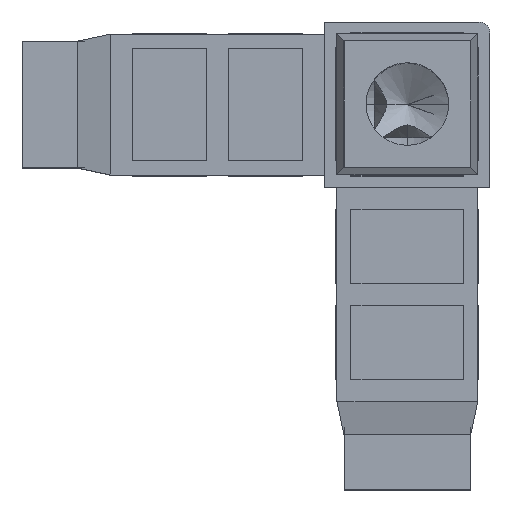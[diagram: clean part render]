
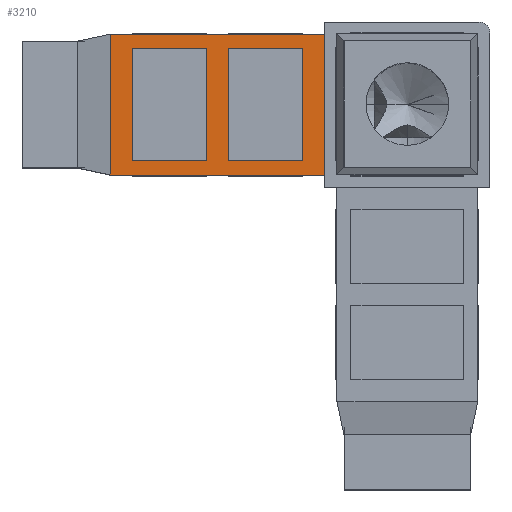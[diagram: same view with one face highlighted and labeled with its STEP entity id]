
A CAD part, top view. The second image highlights one B-rep face of the part: STEP entity #3210.
In plain terms, the highlighted planar face has unit normal (0, 0, 1).
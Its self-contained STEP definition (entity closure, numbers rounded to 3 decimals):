
#8 = EDGE_CURVE ( 'NONE', #3108, #4828, #1395, .T. ) ;
#17 = CARTESIAN_POINT ( 'NONE',  ( -36.5, 10.25, 12.8 ) ) ;
#25 = CARTESIAN_POINT ( 'NONE',  ( -32.5, -10.25, 12.8 ) ) ;
#67 = CARTESIAN_POINT ( 'NONE',  ( -50., 10.25, 12.8 ) ) ;
#164 = CARTESIAN_POINT ( 'NONE',  ( -60., 12.8, 12.8 ) ) ;
#178 = LINE ( 'NONE', #1509, #4492 ) ;
#211 = DIRECTION ( 'NONE',  ( 0., 1., 0. ) ) ;
#240 = CARTESIAN_POINT ( 'NONE',  ( -50., 10.25, 12.8 ) ) ;
#469 = VERTEX_POINT ( 'NONE', #1046 ) ;
#609 = VERTEX_POINT ( 'NONE', #3351 ) ;
#670 = VECTOR ( 'NONE', #3198, 1000. ) ;
#709 = DIRECTION ( 'NONE',  ( 0., 0., -1. ) ) ;
#738 = FACE_BOUND ( 'NONE', #2745, .T. ) ;
#758 = DIRECTION ( 'NONE',  ( 0., 1., 0. ) ) ;
#947 = EDGE_CURVE ( 'NONE', #2266, #469, #3864, .T. ) ;
#981 = CARTESIAN_POINT ( 'NONE',  ( -54., -12.8, 12.8 ) ) ;
#997 = VERTEX_POINT ( 'NONE', #3586 ) ;
#1041 = CARTESIAN_POINT ( 'NONE',  ( -54., 12.8, 12.8 ) ) ;
#1046 = CARTESIAN_POINT ( 'NONE',  ( -54., -12.8, 12.8 ) ) ;
#1082 = CARTESIAN_POINT ( 'NONE',  ( -32.5, 10.25, 12.8 ) ) ;
#1094 = CARTESIAN_POINT ( 'NONE',  ( -19., -10.25, 12.8 ) ) ;
#1149 = DIRECTION ( 'NONE',  ( -1., 0., 0. ) ) ;
#1270 = VECTOR ( 'NONE', #3996, 1000. ) ;
#1280 = LINE ( 'NONE', #2907, #3438 ) ;
#1395 = LINE ( 'NONE', #4497, #1270 ) ;
#1399 = VERTEX_POINT ( 'NONE', #25 ) ;
#1488 = CARTESIAN_POINT ( 'NONE',  ( -15., 12.8, 12.8 ) ) ;
#1509 = CARTESIAN_POINT ( 'NONE',  ( -36.5, 10.25, 12.8 ) ) ;
#1562 = PLANE ( 'NONE',  #4085 ) ;
#1604 = ORIENTED_EDGE ( 'NONE', *, *, #8, .F. ) ;
#1617 = VECTOR ( 'NONE', #2278, 1000. ) ;
#1680 = LINE ( 'NONE', #4577, #2689 ) ;
#1704 = EDGE_CURVE ( 'NONE', #2266, #2284, #3966, .T. ) ;
#1759 = ORIENTED_EDGE ( 'NONE', *, *, #2629, .F. ) ;
#1804 = VERTEX_POINT ( 'NONE', #5402 ) ;
#1835 = DIRECTION ( 'NONE',  ( 0., -1., 0. ) ) ;
#1972 = EDGE_CURVE ( 'NONE', #1399, #3108, #4900, .T. ) ;
#2060 = CARTESIAN_POINT ( 'NONE',  ( -19., 10.25, 12.8 ) ) ;
#2069 = EDGE_CURVE ( 'NONE', #5169, #3001, #178, .T. ) ;
#2175 = EDGE_CURVE ( 'NONE', #609, #2284, #1680, .T. ) ;
#2266 = VERTEX_POINT ( 'NONE', #1041 ) ;
#2278 = DIRECTION ( 'NONE',  ( 1., 0., 0. ) ) ;
#2284 = VERTEX_POINT ( 'NONE', #1488 ) ;
#2315 = ORIENTED_EDGE ( 'NONE', *, *, #2451, .F. ) ;
#2374 = VECTOR ( 'NONE', #4510, 1000. ) ;
#2420 = VECTOR ( 'NONE', #3537, 1000. ) ;
#2428 = CARTESIAN_POINT ( 'NONE',  ( -60., -12.8, 12.8 ) ) ;
#2451 = EDGE_CURVE ( 'NONE', #3001, #3688, #3767, .T. ) ;
#2472 = ORIENTED_EDGE ( 'NONE', *, *, #4127, .F. ) ;
#2503 = DIRECTION ( 'NONE',  ( -1., 0., 0. ) ) ;
#2568 = LINE ( 'NONE', #67, #2420 ) ;
#2629 = EDGE_CURVE ( 'NONE', #4828, #997, #3828, .T. ) ;
#2689 = VECTOR ( 'NONE', #758, 1000. ) ;
#2726 = EDGE_LOOP ( 'NONE', ( #5544, #5269, #4088, #2951 ) ) ;
#2745 = EDGE_LOOP ( 'NONE', ( #2315, #5084, #4932, #4921 ) ) ;
#2754 = DIRECTION ( 'NONE',  ( 1., 0., 0. ) ) ;
#2839 = VECTOR ( 'NONE', #2754, 1000. ) ;
#2907 = CARTESIAN_POINT ( 'NONE',  ( -60., -12.8, 12.8 ) ) ;
#2951 = ORIENTED_EDGE ( 'NONE', *, *, #2175, .T. ) ;
#3001 = VERTEX_POINT ( 'NONE', #17 ) ;
#3061 = CARTESIAN_POINT ( 'NONE',  ( -19., 10.25, 12.8 ) ) ;
#3063 = EDGE_CURVE ( 'NONE', #3688, #1804, #2568, .T. ) ;
#3108 = VERTEX_POINT ( 'NONE', #1094 ) ;
#3140 = EDGE_LOOP ( 'NONE', ( #1759, #1604, #4756, #2472 ) ) ;
#3146 = CARTESIAN_POINT ( 'NONE',  ( -19., -10.25, 12.8 ) ) ;
#3198 = DIRECTION ( 'NONE',  ( 1., 0., 0. ) ) ;
#3210 = ADVANCED_FACE ( 'NONE', ( #738, #5302, #5178 ), #1562, .F. ) ;
#3342 = DIRECTION ( 'NONE',  ( 1., 0., 0. ) ) ;
#3351 = CARTESIAN_POINT ( 'NONE',  ( -15., -12.8, 12.8 ) ) ;
#3438 = VECTOR ( 'NONE', #3342, 1000. ) ;
#3491 = EDGE_CURVE ( 'NONE', #469, #609, #1280, .T. ) ;
#3533 = LINE ( 'NONE', #1082, #2374 ) ;
#3537 = DIRECTION ( 'NONE',  ( 0., -1., 0. ) ) ;
#3586 = CARTESIAN_POINT ( 'NONE',  ( -32.5, 10.25, 12.8 ) ) ;
#3631 = VECTOR ( 'NONE', #1149, 1000. ) ;
#3688 = VERTEX_POINT ( 'NONE', #240 ) ;
#3731 = DIRECTION ( 'NONE',  ( -1., 0., 0. ) ) ;
#3767 = LINE ( 'NONE', #4145, #3631 ) ;
#3828 = LINE ( 'NONE', #2060, #4952 ) ;
#3845 = LINE ( 'NONE', #5315, #2839 ) ;
#3864 = LINE ( 'NONE', #981, #4861 ) ;
#3966 = LINE ( 'NONE', #164, #670 ) ;
#3996 = DIRECTION ( 'NONE',  ( 0., 1., 0. ) ) ;
#4085 = AXIS2_PLACEMENT_3D ( 'NONE', #2428, #709, #3731 ) ;
#4088 = ORIENTED_EDGE ( 'NONE', *, *, #3491, .T. ) ;
#4127 = EDGE_CURVE ( 'NONE', #997, #1399, #3533, .T. ) ;
#4145 = CARTESIAN_POINT ( 'NONE',  ( -36.5, 10.25, 12.8 ) ) ;
#4492 = VECTOR ( 'NONE', #211, 1000. ) ;
#4497 = CARTESIAN_POINT ( 'NONE',  ( -19., 10.25, 12.8 ) ) ;
#4510 = DIRECTION ( 'NONE',  ( 0., -1., 0. ) ) ;
#4577 = CARTESIAN_POINT ( 'NONE',  ( -15., -12.8, 12.8 ) ) ;
#4756 = ORIENTED_EDGE ( 'NONE', *, *, #1972, .F. ) ;
#4828 = VERTEX_POINT ( 'NONE', #3061 ) ;
#4861 = VECTOR ( 'NONE', #1835, 1000. ) ;
#4900 = LINE ( 'NONE', #3146, #1617 ) ;
#4921 = ORIENTED_EDGE ( 'NONE', *, *, #3063, .F. ) ;
#4932 = ORIENTED_EDGE ( 'NONE', *, *, #5381, .F. ) ;
#4952 = VECTOR ( 'NONE', #2503, 1000. ) ;
#5084 = ORIENTED_EDGE ( 'NONE', *, *, #2069, .F. ) ;
#5169 = VERTEX_POINT ( 'NONE', #5197 ) ;
#5178 = FACE_BOUND ( 'NONE', #3140, .T. ) ;
#5197 = CARTESIAN_POINT ( 'NONE',  ( -36.5, -10.25, 12.8 ) ) ;
#5269 = ORIENTED_EDGE ( 'NONE', *, *, #947, .T. ) ;
#5302 = FACE_OUTER_BOUND ( 'NONE', #2726, .T. ) ;
#5315 = CARTESIAN_POINT ( 'NONE',  ( -36.5, -10.25, 12.8 ) ) ;
#5381 = EDGE_CURVE ( 'NONE', #1804, #5169, #3845, .T. ) ;
#5402 = CARTESIAN_POINT ( 'NONE',  ( -50., -10.25, 12.8 ) ) ;
#5544 = ORIENTED_EDGE ( 'NONE', *, *, #1704, .F. ) ;
